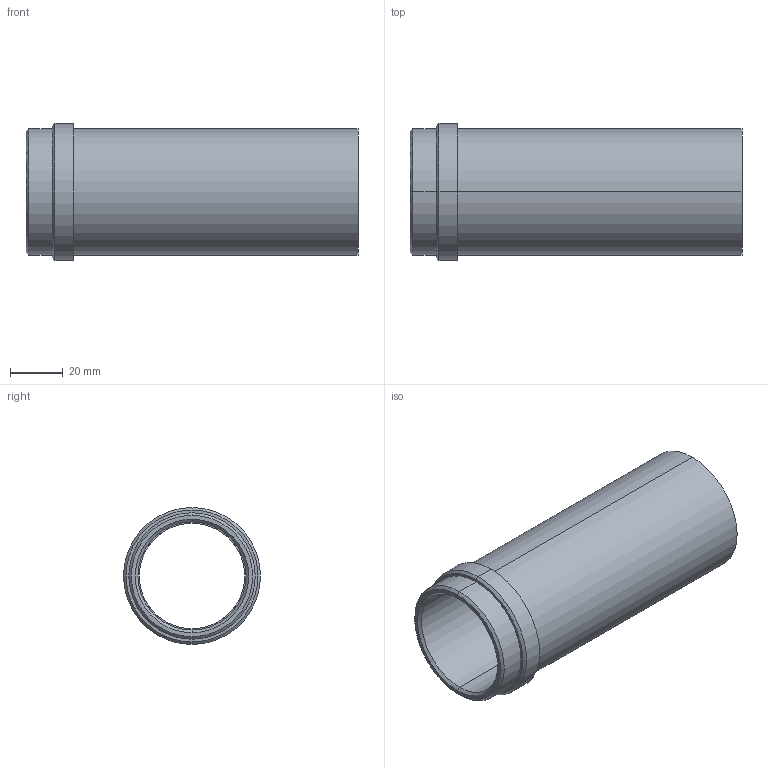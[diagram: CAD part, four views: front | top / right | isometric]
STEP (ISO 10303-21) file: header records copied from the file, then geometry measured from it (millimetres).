
FILE_DESCRIPTION(('CATIA V5 STEP Exchange'),'2;1');
FILE_NAME('C:\Users\Utente\Desktop\IO LAVORO\3D X SITO CF\X SITO\PLASTICA\358\358-40x126.stp','2021-04-09T14:45:50+00:00',('none'),('none'),'CATIA Version 5 Release 20 GA (IN-10)','CATIA V5 STEP AP203','none');
FILE_SCHEMA(('CONFIG_CONTROL_DESIGN'));
Length unit declared in the file: millimetre
Products named in the file (1): 358-40X126
Bounding box: 126 x 52 x 52 mm (x, y, z)
Volume: 68924.1 mm3; surface area: 36446.3 mm2
Topology: 1 solids, 1 shells, 23 faces, 74 edges, 56 vertices
Faces by surface type: cylinder 10, cone 6, plane 5, torus 2
Entity records: 1066 total; most frequent: CARTESIAN_POINT 378, ORIENTED_EDGE 148, DIRECTION 104, EDGE_CURVE 74, AXIS2_PLACEMENT_3D 66, VERTEX_POINT 56, CIRCLE 42, EDGE_LOOP 28
